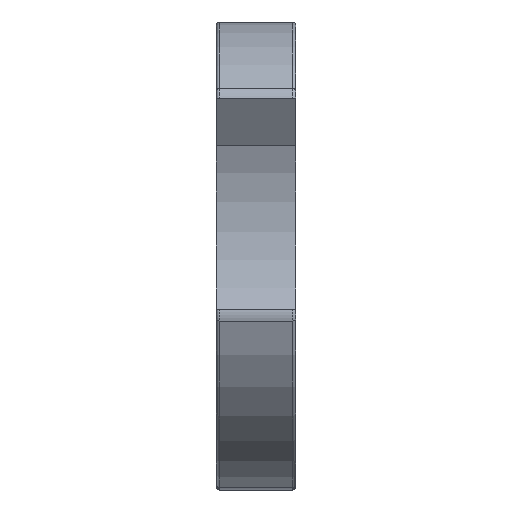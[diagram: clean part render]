
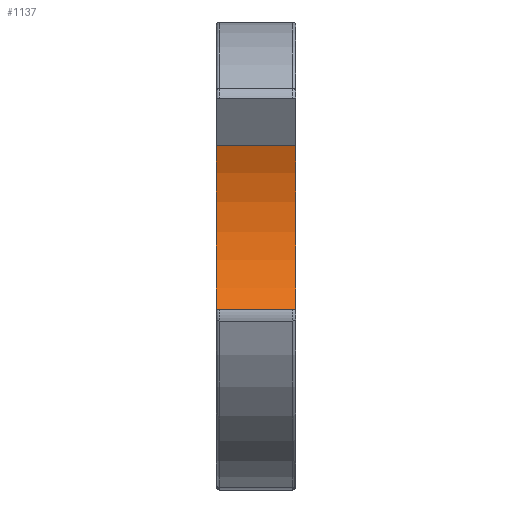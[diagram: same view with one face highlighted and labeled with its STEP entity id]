
A CAD part, left-side view. The second image highlights one B-rep face of the part: STEP entity #1137.
In plain terms, the highlighted cylindrical face has radius 63.747 mm (diameter 127.494 mm), a partial arc.
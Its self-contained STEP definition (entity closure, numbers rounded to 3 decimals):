
#2 = CARTESIAN_POINT ( 'NONE',  ( 12.802, 14., -3.43 ) ) ;
#40 = VERTEX_POINT ( 'NONE', #968 ) ;
#97 = LINE ( 'NONE', #1315, #1721 ) ;
#114 = EDGE_CURVE ( 'NONE', #123, #1658, #347, .T. ) ;
#123 = VERTEX_POINT ( 'NONE', #1850 ) ;
#347 = CIRCLE ( 'NONE', #736, 63.747 ) ;
#481 = DIRECTION ( 'NONE',  ( 0., -1., 0. ) ) ;
#579 = CARTESIAN_POINT ( 'NONE',  ( 71.804, 14., 20.701 ) ) ;
#677 = DIRECTION ( 'NONE',  ( 0., -1., 0. ) ) ;
#697 = ORIENTED_EDGE ( 'NONE', *, *, #1964, .T. ) ;
#736 = AXIS2_PLACEMENT_3D ( 'NONE', #2, #1443, #2301 ) ;
#841 = CARTESIAN_POINT ( 'NONE',  ( 51.834, -14., -53.83 ) ) ;
#850 = FACE_OUTER_BOUND ( 'NONE', #1953, .T. ) ;
#890 = VERTEX_POINT ( 'NONE', #841 ) ;
#941 = LINE ( 'NONE', #579, #2654 ) ;
#968 = CARTESIAN_POINT ( 'NONE',  ( 71.804, -14., 20.701 ) ) ;
#1137 = ADVANCED_FACE ( 'NONE', ( #850 ), #1660, .F. ) ;
#1149 = CIRCLE ( 'NONE', #2268, 63.747 ) ;
#1315 = CARTESIAN_POINT ( 'NONE',  ( 51.834, 14., -53.83 ) ) ;
#1413 = ORIENTED_EDGE ( 'NONE', *, *, #1517, .T. ) ;
#1443 = DIRECTION ( 'NONE',  ( 0., -1., 0. ) ) ;
#1517 = EDGE_CURVE ( 'NONE', #890, #40, #1149, .T. ) ;
#1565 = CARTESIAN_POINT ( 'NONE',  ( 12.802, -14., -3.43 ) ) ;
#1658 = VERTEX_POINT ( 'NONE', #2256 ) ;
#1660 = CYLINDRICAL_SURFACE ( 'NONE', #1676, 63.747 ) ;
#1676 = AXIS2_PLACEMENT_3D ( 'NONE', #1683, #2093, #2529 ) ;
#1683 = CARTESIAN_POINT ( 'NONE',  ( 12.802, 14., -3.43 ) ) ;
#1719 = ORIENTED_EDGE ( 'NONE', *, *, #114, .F. ) ;
#1721 = VECTOR ( 'NONE', #677, 1000. ) ;
#1808 = DIRECTION ( 'NONE',  ( 0., -1., 0. ) ) ;
#1849 = EDGE_CURVE ( 'NONE', #1658, #40, #941, .T. ) ;
#1850 = CARTESIAN_POINT ( 'NONE',  ( 51.834, 14., -53.83 ) ) ;
#1853 = ORIENTED_EDGE ( 'NONE', *, *, #1849, .F. ) ;
#1953 = EDGE_LOOP ( 'NONE', ( #1413, #1853, #1719, #697 ) ) ;
#1964 = EDGE_CURVE ( 'NONE', #123, #890, #97, .T. ) ;
#2093 = DIRECTION ( 'NONE',  ( 0., -1., 0. ) ) ;
#2256 = CARTESIAN_POINT ( 'NONE',  ( 71.804, 14., 20.701 ) ) ;
#2268 = AXIS2_PLACEMENT_3D ( 'NONE', #1565, #481, #2605 ) ;
#2301 = DIRECTION ( 'NONE',  ( 0., 0., 1. ) ) ;
#2529 = DIRECTION ( 'NONE',  ( 0., 0., -1. ) ) ;
#2605 = DIRECTION ( 'NONE',  ( 0., 0., 1. ) ) ;
#2654 = VECTOR ( 'NONE', #1808, 1000. ) ;
